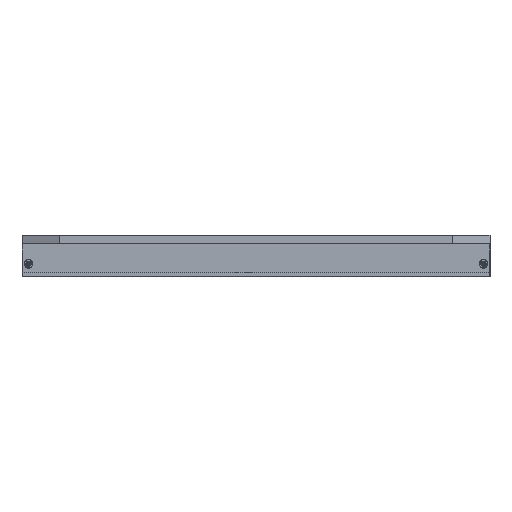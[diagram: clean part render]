
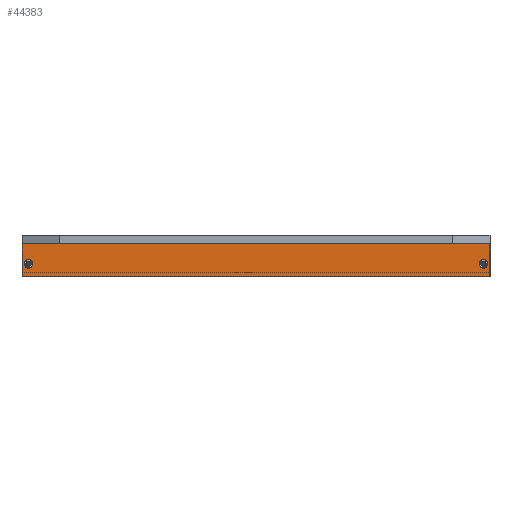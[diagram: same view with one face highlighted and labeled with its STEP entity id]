
A CAD part, front view. The second image highlights one B-rep face of the part: STEP entity #44383.
In plain terms, the highlighted planar face has unit normal (0, -1, 0).
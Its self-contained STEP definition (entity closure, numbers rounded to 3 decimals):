
#4917=DIRECTION('',(-1.,0.,0.));
#4918=VECTOR('',#4917,212.6);
#4919=CARTESIAN_POINT('',(106.3,-156.5,0.));
#4920=LINE('',#4919,#4918);
#14580=DIRECTION('',(0.,0.,-1.));
#14581=VECTOR('',#14580,14.8);
#14582=CARTESIAN_POINT('',(106.3,-156.5,0.));
#14583=LINE('',#14582,#14581);
#14584=CARTESIAN_POINT('',(-103.5,-156.5,-9.));
#14585=DIRECTION('',(0.,1.,0.));
#14586=DIRECTION('',(0.,0.,1.));
#14587=AXIS2_PLACEMENT_3D('',#14584,#14585,#14586);
#14589=CARTESIAN_POINT('',(-103.5,-156.5,-9.));
#14590=DIRECTION('',(0.,1.,0.));
#14591=DIRECTION('',(0.,0.,-1.));
#14592=AXIS2_PLACEMENT_3D('',#14589,#14590,#14591);
#14594=CARTESIAN_POINT('',(103.5,-156.5,-9.));
#14595=DIRECTION('',(0.,1.,0.));
#14596=DIRECTION('',(0.,0.,-1.));
#14597=AXIS2_PLACEMENT_3D('',#14594,#14595,#14596);
#14599=CARTESIAN_POINT('',(103.5,-156.5,-9.));
#14600=DIRECTION('',(0.,1.,0.));
#14601=DIRECTION('',(0.,0.,1.));
#14602=AXIS2_PLACEMENT_3D('',#14599,#14600,#14601);
#14604=DIRECTION('',(1.,0.,0.));
#14605=VECTOR('',#14604,212.6);
#14606=CARTESIAN_POINT('',(-106.3,-156.5,-14.8));
#14607=LINE('',#14606,#14605);
#14608=DIRECTION('',(0.,0.,-1.));
#14609=VECTOR('',#14608,14.8);
#14610=CARTESIAN_POINT('',(-106.3,-156.5,0.));
#14611=LINE('',#14610,#14609);
#18704=CARTESIAN_POINT('',(-106.3,-156.5,-14.8));
#18705=VERTEX_POINT('',#18704);
#18712=CARTESIAN_POINT('',(106.3,-156.5,-14.8));
#18713=VERTEX_POINT('',#18712);
#18714=CARTESIAN_POINT('',(103.5,-156.5,-7.));
#18715=CARTESIAN_POINT('',(103.5,-156.5,-11.));
#18716=VERTEX_POINT('',#18714);
#18717=VERTEX_POINT('',#18715);
#18718=CARTESIAN_POINT('',(-103.5,-156.5,-11.));
#18719=CARTESIAN_POINT('',(-103.5,-156.5,-7.));
#18720=VERTEX_POINT('',#18718);
#18721=VERTEX_POINT('',#18719);
#21966=CARTESIAN_POINT('',(-106.3,-156.5,0.));
#21968=VERTEX_POINT('',#21966);
#21969=CARTESIAN_POINT('',(106.3,-156.5,0.));
#21970=VERTEX_POINT('',#21969);
#44359=CARTESIAN_POINT('',(-106.5,-156.5,-15.));
#44360=DIRECTION('',(0.,-1.,0.));
#44361=DIRECTION('',(0.,0.,1.));
#44362=AXIS2_PLACEMENT_3D('',#44359,#44360,#44361);
#44363=PLANE('',#44362);
#44364=ORIENTED_EDGE('',*,*,#44354,.T.);
#44365=ORIENTED_EDGE('',*,*,#44324,.F.);
#44367=ORIENTED_EDGE('',*,*,#44366,.F.);
#44368=ORIENTED_EDGE('',*,*,#29645,.F.);
#44369=EDGE_LOOP('',(#44364,#44365,#44367,#44368));
#44370=FACE_OUTER_BOUND('',#44369,.F.);
#44372=ORIENTED_EDGE('',*,*,#44371,.F.);
#44374=ORIENTED_EDGE('',*,*,#44373,.F.);
#44375=EDGE_LOOP('',(#44372,#44374));
#44376=FACE_BOUND('',#44375,.F.);
#44378=ORIENTED_EDGE('',*,*,#44377,.F.);
#44380=ORIENTED_EDGE('',*,*,#44379,.F.);
#44381=EDGE_LOOP('',(#44378,#44380));
#44382=FACE_BOUND('',#44381,.F.);
#44383=ADVANCED_FACE('',(#44370,#44376,#44382),#44363,.T.);
#14588=CIRCLE('',#14587,2.);
#14593=CIRCLE('',#14592,2.);
#14598=CIRCLE('',#14597,2.);
#14603=CIRCLE('',#14602,2.);
#29645=EDGE_CURVE('',#21970,#21968,#4920,.T.);
#44324=EDGE_CURVE('',#18705,#18713,#14607,.T.);
#44354=EDGE_CURVE('',#21970,#18713,#14583,.T.);
#44366=EDGE_CURVE('',#21968,#18705,#14611,.T.);
#44371=EDGE_CURVE('',#18717,#18716,#14598,.T.);
#44373=EDGE_CURVE('',#18716,#18717,#14603,.T.);
#44377=EDGE_CURVE('',#18721,#18720,#14588,.T.);
#44379=EDGE_CURVE('',#18720,#18721,#14593,.T.);
